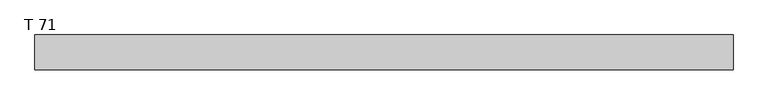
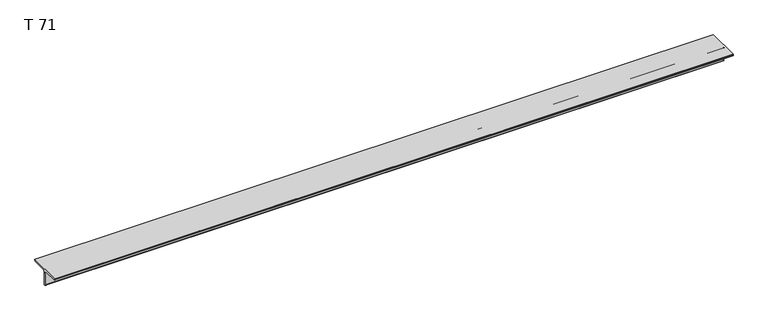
"""IFC4 building model written with IfcOpenShell, lengths in millimetres: beam geometry, T - T estructurales : T 71."""

from ifc_helpers import new_model, si_unit, point, frame, frame_2d, origin, place, context, project, spatial, polyline, circle_curve, trimmed, segment, composite_curve, outline, extrude, source, transform, mapped, element, save


def t_71_98559a5f(model_context):
    return source(origin(), model_context, "Body", "SweptSolid", [
        extrude(outline(composite_curve([segment(polyline([(75.0, 19.4), (75.0, 16.0707999)]), True, "CONTINUOUS"), segment(trimmed(circle_curve(frame_2d((71.0, 16.0707999)), 4.0), [point((75.0, 16.0707999))], [point((71.079984, 12.0715997))], False, "CARTESIAN"), True, "CONTINUOUS"), segment(polyline([(71.079984, 12.0715997), (12.2615684, 10.8952314)]), True, "CONTINUOUS"), segment(trimmed(circle_curve(frame_2d((12.4215365, 2.8968309)), 8.0), [point((12.2615684, 10.8952314))], [point((4.423136, 3.0567989))], True, "CARTESIAN"), True, "CONTINUOUS"), segment(polyline([(4.423136, 3.0567989), (3.2892002, -53.639992)]), True, "CONTINUOUS"), segment(trimmed(circle_curve(frame_2d((1.2896, -53.6)), 2.0), [point((3.2892002, -53.639992))], [point((1.2896, -55.6))], False, "CARTESIAN"), True, "CONTINUOUS"), segment(polyline([(1.2896, -55.6), (-1.2896, -55.6)]), True, "CONTINUOUS"), segment(trimmed(circle_curve(frame_2d((-1.2896, -53.6)), 2.0), [point((-1.2896, -55.6))], [point((-3.2892002, -53.639992))], False, "CARTESIAN"), True, "CONTINUOUS"), segment(polyline([(-3.2892002, -53.639992), (-4.423136, 3.0567989)]), True, "CONTINUOUS"), segment(trimmed(circle_curve(frame_2d((-12.4215365, 2.8968309)), 8.0), [point((-4.423136, 3.0567989))], [point((-12.2615684, 10.8952314))], True, "CARTESIAN"), True, "CONTINUOUS"), segment(polyline([(-12.2615684, 10.8952314), (-71.079984, 12.0715997)]), True, "CONTINUOUS"), segment(trimmed(circle_curve(frame_2d((-71.0, 16.0707999)), 4.0), [point((-71.079984, 12.0715997))], [point((-75.0, 16.0707999))], False, "CARTESIAN"), True, "CONTINUOUS"), segment(polyline([(-75.0, 16.0707999), (-75.0, 19.4), (75.0, 19.4)]), True, "CONTINUOUS")], self_intersect=False)), frame((-1456.0883485, 0.0, 0.0), z_axis=(1.0, 0.0, 0.0), x_axis=(0.0, 1.0, 0.0)), (0.0, 0.0, 1.0), 2994.1977921),
    ])


if __name__ == "__main__":
    model = new_model("IFC4")
    model_context = context("Model", 3, world=origin())
    ifc_project = project(units=[si_unit("LENGTHUNIT", "METRE", prefix="MILLI")], contexts=[model_context])
    site = spatial("IfcSite", under=ifc_project)
    building = spatial("IfcBuilding", under=site)
    placement = place(None, origin())
    t_71_shape = t_71_98559a5f(model_context)
    element("IfcBeam", 1, ObjectType="T - T estructurales : T 71", at=placement, inside=building, context=model_context, shape_type="MappedRepresentation", body=[
        mapped(t_71_shape, transform((0.0, 0.0, 0.0), x_axis=(1.0, 0.0, 0.0), y_axis=(0.0, 1.0, 0.0), z_axis=(0.0, 0.0, 1.0))),
    ])
    save(model, "model.ifc")
